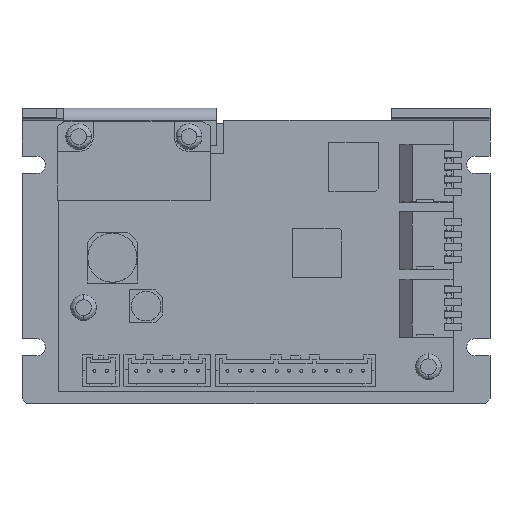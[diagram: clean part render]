
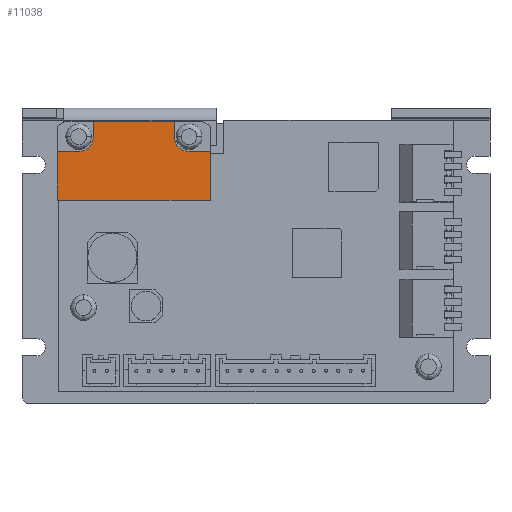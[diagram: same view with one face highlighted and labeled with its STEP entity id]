
A CAD part, top view. The second image highlights one B-rep face of the part: STEP entity #11038.
In plain terms, the highlighted planar face has unit normal (0, 0, 1).
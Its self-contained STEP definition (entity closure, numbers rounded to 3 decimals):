
#304 = DIRECTION ( 'NONE',  ( 0., 1., 0. ) ) ;
#444 = ORIENTED_EDGE ( 'NONE', *, *, #12657, .T. ) ;
#521 = CARTESIAN_POINT ( 'NONE',  ( -24.8, 11.3, 16.7 ) ) ;
#556 = DIRECTION ( 'NONE',  ( 0., -1., 0. ) ) ;
#880 = EDGE_LOOP ( 'NONE', ( #6988, #11469, #10610, #4090, #444, #7368, #8380, #4775, #6528, #5449 ) ) ;
#956 = LINE ( 'NONE', #3297, #2052 ) ;
#1388 = EDGE_CURVE ( 'NONE', #11661, #7908, #3107, .T. ) ;
#1551 = VERTEX_POINT ( 'NONE', #12521 ) ;
#1622 = CARTESIAN_POINT ( 'NONE',  ( -24.8, 21.2, 16.7 ) ) ;
#1743 = CARTESIAN_POINT ( 'NONE',  ( -38.15, 21.2, 16.7 ) ) ;
#2052 = VECTOR ( 'NONE', #8447, 1000. ) ;
#2081 = CARTESIAN_POINT ( 'NONE',  ( -13.6, 21.2, 16.7 ) ) ;
#2178 = DIRECTION ( 'NONE',  ( -1., 0., 0. ) ) ;
#2506 = AXIS2_PLACEMENT_3D ( 'NONE', #14204, #7261, #2592 ) ;
#2592 = DIRECTION ( 'NONE',  ( 1., 0., 0. ) ) ;
#2777 = VECTOR ( 'NONE', #2178, 1000. ) ;
#2866 = VECTOR ( 'NONE', #10694, 1000. ) ;
#3099 = CARTESIAN_POINT ( 'NONE',  ( -16.6, 24.2, 16.7 ) ) ;
#3107 = LINE ( 'NONE', #7459, #11131 ) ;
#3200 = AXIS2_PLACEMENT_3D ( 'NONE', #9848, #10899, #556 ) ;
#3297 = CARTESIAN_POINT ( 'NONE',  ( -24.8, 27.3, 16.7 ) ) ;
#3720 = VERTEX_POINT ( 'NONE', #9353 ) ;
#4090 = ORIENTED_EDGE ( 'NONE', *, *, #8058, .F. ) ;
#4457 = DIRECTION ( 'NONE',  ( 0., -1., 0. ) ) ;
#4475 = EDGE_CURVE ( 'NONE', #14126, #9212, #4661, .T. ) ;
#4561 = VERTEX_POINT ( 'NONE', #10246 ) ;
#4661 = CIRCLE ( 'NONE', #7308, 3. ) ;
#4775 = ORIENTED_EDGE ( 'NONE', *, *, #8233, .T. ) ;
#4886 = CARTESIAN_POINT ( 'NONE',  ( -33., 24.2, 16.7 ) ) ;
#5218 = LINE ( 'NONE', #521, #7941 ) ;
#5411 = CARTESIAN_POINT ( 'NONE',  ( -40.3, 11.3, 16.7 ) ) ;
#5449 = ORIENTED_EDGE ( 'NONE', *, *, #1388, .T. ) ;
#5631 = FACE_OUTER_BOUND ( 'NONE', #880, .T. ) ;
#5706 = EDGE_CURVE ( 'NONE', #9212, #4561, #6874, .T. ) ;
#5940 = CARTESIAN_POINT ( 'NONE',  ( -33., 25.75, 16.7 ) ) ;
#6100 = CARTESIAN_POINT ( 'NONE',  ( -40.3, 18.8, 16.7 ) ) ;
#6308 = VERTEX_POINT ( 'NONE', #5411 ) ;
#6528 = ORIENTED_EDGE ( 'NONE', *, *, #13867, .T. ) ;
#6874 = LINE ( 'NONE', #14792, #11062 ) ;
#6902 = DIRECTION ( 'NONE',  ( 0., 0., -1. ) ) ;
#6988 = ORIENTED_EDGE ( 'NONE', *, *, #9058, .T. ) ;
#7098 = PLANE ( 'NONE',  #2506 ) ;
#7103 = DIRECTION ( 'NONE',  ( 1., 0., 0. ) ) ;
#7261 = DIRECTION ( 'NONE',  ( 0., 0., 1. ) ) ;
#7308 = AXIS2_PLACEMENT_3D ( 'NONE', #10304, #6902, #4457 ) ;
#7368 = ORIENTED_EDGE ( 'NONE', *, *, #11090, .F. ) ;
#7459 = CARTESIAN_POINT ( 'NONE',  ( -9.3, 19.3, 16.7 ) ) ;
#7708 = VERTEX_POINT ( 'NONE', #11872 ) ;
#7709 = CARTESIAN_POINT ( 'NONE',  ( -9.3, 21.2, 16.7 ) ) ;
#7908 = VERTEX_POINT ( 'NONE', #7709 ) ;
#7941 = VECTOR ( 'NONE', #7103, 1000. ) ;
#8007 = CIRCLE ( 'NONE', #3200, 3. ) ;
#8054 = LINE ( 'NONE', #1622, #14783 ) ;
#8058 = EDGE_CURVE ( 'NONE', #7708, #4561, #956, .T. ) ;
#8233 = EDGE_CURVE ( 'NONE', #3720, #6308, #13732, .T. ) ;
#8380 = ORIENTED_EDGE ( 'NONE', *, *, #8562, .T. ) ;
#8447 = DIRECTION ( 'NONE',  ( 1., 0., 0. ) ) ;
#8562 = EDGE_CURVE ( 'NONE', #1551, #3720, #12608, .T. ) ;
#9058 = EDGE_CURVE ( 'NONE', #7908, #14126, #8054, .T. ) ;
#9212 = VERTEX_POINT ( 'NONE', #3099 ) ;
#9353 = CARTESIAN_POINT ( 'NONE',  ( -40.3, 21.2, 16.7 ) ) ;
#9549 = VECTOR ( 'NONE', #14223, 1000. ) ;
#9848 = CARTESIAN_POINT ( 'NONE',  ( -36., 24.2, 16.7 ) ) ;
#10246 = CARTESIAN_POINT ( 'NONE',  ( -16.6, 27.3, 16.7 ) ) ;
#10304 = CARTESIAN_POINT ( 'NONE',  ( -13.6, 24.2, 16.7 ) ) ;
#10610 = ORIENTED_EDGE ( 'NONE', *, *, #5706, .T. ) ;
#10694 = DIRECTION ( 'NONE',  ( 0., -1., 0. ) ) ;
#10839 = CARTESIAN_POINT ( 'NONE',  ( -9.3, 11.3, 16.7 ) ) ;
#10899 = DIRECTION ( 'NONE',  ( 0., 0., 1. ) ) ;
#10953 = DIRECTION ( 'NONE',  ( -1., 0., 0. ) ) ;
#11038 = ADVANCED_FACE ( 'NONE', ( #5631 ), #7098, .T. ) ;
#11062 = VECTOR ( 'NONE', #13772, 1000. ) ;
#11090 = EDGE_CURVE ( 'NONE', #1551, #12104, #8007, .T. ) ;
#11131 = VECTOR ( 'NONE', #304, 1000. ) ;
#11469 = ORIENTED_EDGE ( 'NONE', *, *, #4475, .T. ) ;
#11661 = VERTEX_POINT ( 'NONE', #10839 ) ;
#11872 = CARTESIAN_POINT ( 'NONE',  ( -33., 27.3, 16.7 ) ) ;
#12104 = VERTEX_POINT ( 'NONE', #4886 ) ;
#12521 = CARTESIAN_POINT ( 'NONE',  ( -36., 21.2, 16.7 ) ) ;
#12608 = LINE ( 'NONE', #1743, #2777 ) ;
#12657 = EDGE_CURVE ( 'NONE', #7708, #12104, #14908, .T. ) ;
#13732 = LINE ( 'NONE', #6100, #9549 ) ;
#13772 = DIRECTION ( 'NONE',  ( 0., 1., 0. ) ) ;
#13867 = EDGE_CURVE ( 'NONE', #6308, #11661, #5218, .T. ) ;
#14126 = VERTEX_POINT ( 'NONE', #2081 ) ;
#14204 = CARTESIAN_POINT ( 'NONE',  ( -40.3, 11.3, 16.7 ) ) ;
#14223 = DIRECTION ( 'NONE',  ( 0., -1., 0. ) ) ;
#14783 = VECTOR ( 'NONE', #10953, 1000. ) ;
#14792 = CARTESIAN_POINT ( 'NONE',  ( -16.6, 19.3, 16.7 ) ) ;
#14908 = LINE ( 'NONE', #5940, #2866 ) ;
